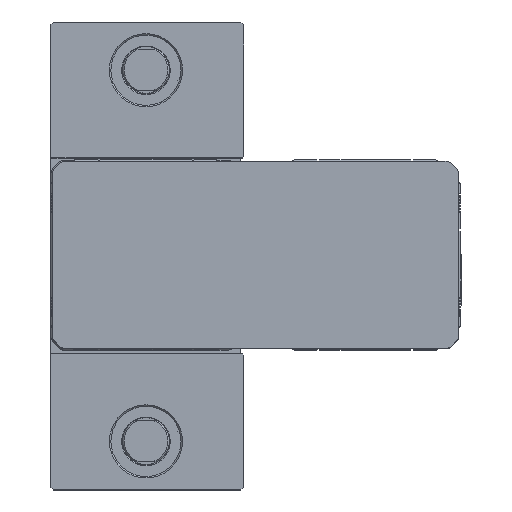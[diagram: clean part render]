
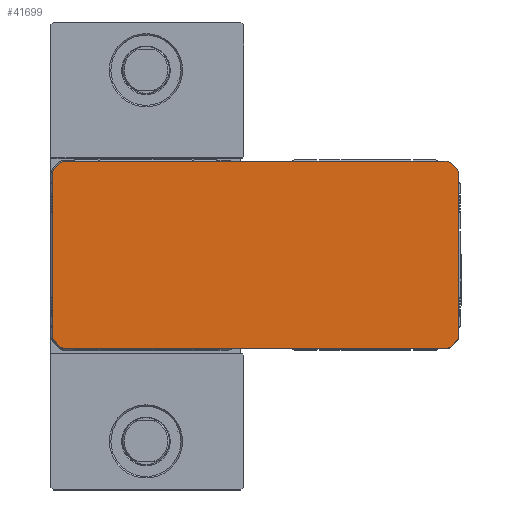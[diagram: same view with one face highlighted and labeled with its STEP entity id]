
A CAD part, top view. The second image highlights one B-rep face of the part: STEP entity #41699.
In plain terms, the highlighted planar face has unit normal (0, 0, 1).
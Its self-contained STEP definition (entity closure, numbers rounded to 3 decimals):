
#203 = DIRECTION ( 'NONE',  ( 0., 0., 1. ) ) ;
#375 = CARTESIAN_POINT ( 'NONE',  ( -30.5, -28., 202.5 ) ) ;
#759 = ORIENTED_EDGE ( 'NONE', *, *, #32556, .T. ) ;
#3384 = CARTESIAN_POINT ( 'NONE',  ( 106.561, -29.061, 202.5 ) ) ;
#3632 = DIRECTION ( 'NONE',  ( 0., -1., 0. ) ) ;
#3912 = DIRECTION ( 'NONE',  ( 1., 0., 0. ) ) ;
#4560 = EDGE_CURVE ( 'NONE', #6286, #18682, #35594, .T. ) ;
#5139 = CARTESIAN_POINT ( 'NONE',  ( -30.5, 28., 202.5 ) ) ;
#5241 = DIRECTION ( 'NONE',  ( 0., 0., 1. ) ) ;
#6077 = DIRECTION ( 'NONE',  ( 0., 0., 1. ) ) ;
#6286 = VERTEX_POINT ( 'NONE', #31207 ) ;
#6361 = CARTESIAN_POINT ( 'NONE',  ( -32., -28., 202.5 ) ) ;
#6385 = EDGE_CURVE ( 'NONE', #15579, #31741, #9840, .T. ) ;
#6594 = LINE ( 'NONE', #21243, #14782 ) ;
#6954 = DIRECTION ( 'NONE',  ( 0., 0., 1. ) ) ;
#7377 = CARTESIAN_POINT ( 'NONE',  ( 107., -28., 202.5 ) ) ;
#7786 = AXIS2_PLACEMENT_3D ( 'NONE', #33298, #12276, #36839 ) ;
#7987 = VERTEX_POINT ( 'NONE', #35904 ) ;
#8098 = CIRCLE ( 'NONE', #28181, 1.5 ) ;
#8376 = VECTOR ( 'NONE', #43978, 1000. ) ;
#8672 = DIRECTION ( 'NONE',  ( 1., 0., 0. ) ) ;
#8717 = CARTESIAN_POINT ( 'NONE',  ( 104.061, -31.561, 202.5 ) ) ;
#8868 = LINE ( 'NONE', #7377, #45024 ) ;
#9461 = EDGE_CURVE ( 'NONE', #42812, #29509, #42453, .T. ) ;
#9840 = CIRCLE ( 'NONE', #42471, 1.5 ) ;
#9941 = EDGE_CURVE ( 'NONE', #28613, #38565, #21510, .T. ) ;
#12131 = CIRCLE ( 'NONE', #40526, 1.5 ) ;
#12195 = DIRECTION ( 'NONE',  ( -0.707, 0.707, 0. ) ) ;
#12276 = DIRECTION ( 'NONE',  ( 0., 0., 1. ) ) ;
#12907 = AXIS2_PLACEMENT_3D ( 'NONE', #36467, #15444, #40016 ) ;
#13167 = VERTEX_POINT ( 'NONE', #3384 ) ;
#13768 = CARTESIAN_POINT ( 'NONE',  ( 103., -32., 202.5 ) ) ;
#13827 = VECTOR ( 'NONE', #21966, 1000. ) ;
#13901 = LINE ( 'NONE', #14031, #30374 ) ;
#14031 = CARTESIAN_POINT ( 'NONE',  ( -32., 28., 202.5 ) ) ;
#14671 = CIRCLE ( 'NONE', #20477, 1.5 ) ;
#14782 = VECTOR ( 'NONE', #42450, 1000. ) ;
#14915 = ORIENTED_EDGE ( 'NONE', *, *, #4560, .T. ) ;
#15444 = DIRECTION ( 'NONE',  ( 0., 0., 1. ) ) ;
#15579 = VERTEX_POINT ( 'NONE', #6361 ) ;
#15942 = DIRECTION ( 'NONE',  ( 1., 0., 0. ) ) ;
#16024 = LINE ( 'NONE', #43780, #42949 ) ;
#16281 = ORIENTED_EDGE ( 'NONE', *, *, #40229, .T. ) ;
#16934 = EDGE_CURVE ( 'NONE', #18682, #42542, #16024, .T. ) ;
#17635 = CARTESIAN_POINT ( 'NONE',  ( -31.561, -29.061, 202.5 ) ) ;
#17646 = LINE ( 'NONE', #40471, #8376 ) ;
#18065 = DIRECTION ( 'NONE',  ( 0., 1., 0. ) ) ;
#18497 = LINE ( 'NONE', #22780, #44285 ) ;
#18564 = ORIENTED_EDGE ( 'NONE', *, *, #33060, .T. ) ;
#18682 = VERTEX_POINT ( 'NONE', #36395 ) ;
#19002 = AXIS2_PLACEMENT_3D ( 'NONE', #21156, #203, #24685 ) ;
#20297 = DIRECTION ( 'NONE',  ( 0., 0., 1. ) ) ;
#20477 = AXIS2_PLACEMENT_3D ( 'NONE', #26199, #5241, #29762 ) ;
#21156 = CARTESIAN_POINT ( 'NONE',  ( 103., 30.5, 202.5 ) ) ;
#21243 = CARTESIAN_POINT ( 'NONE',  ( -29.061, 31.561, 202.5 ) ) ;
#21510 = CIRCLE ( 'NONE', #12907, 1.5 ) ;
#21966 = DIRECTION ( 'NONE',  ( 0.707, -0.707, 0. ) ) ;
#22444 = EDGE_CURVE ( 'NONE', #29509, #34237, #41133, .T. ) ;
#22780 = CARTESIAN_POINT ( 'NONE',  ( 103., 32., 202.5 ) ) ;
#23071 = VERTEX_POINT ( 'NONE', #33396 ) ;
#23441 = EDGE_CURVE ( 'NONE', #31741, #7987, #31401, .T. ) ;
#23698 = ORIENTED_EDGE ( 'NONE', *, *, #9941, .T. ) ;
#24375 = CARTESIAN_POINT ( 'NONE',  ( -30.5, -28., 202.5 ) ) ;
#24665 = EDGE_CURVE ( 'NONE', #38565, #23071, #6594, .T. ) ;
#24685 = DIRECTION ( 'NONE',  ( 1., 0., 0. ) ) ;
#24862 = DIRECTION ( 'NONE',  ( 0., 0., 1. ) ) ;
#26199 = CARTESIAN_POINT ( 'NONE',  ( -28., -30.5, 202.5 ) ) ;
#26494 = ORIENTED_EDGE ( 'NONE', *, *, #37680, .T. ) ;
#27028 = CARTESIAN_POINT ( 'NONE',  ( 105.5, 28., 202.5 ) ) ;
#27352 = CARTESIAN_POINT ( 'NONE',  ( -29.061, 31.561, 202.5 ) ) ;
#27393 = AXIS2_PLACEMENT_3D ( 'NONE', #27028, #6077, #30578 ) ;
#28181 = AXIS2_PLACEMENT_3D ( 'NONE', #41343, #20297, #44813 ) ;
#28223 = CARTESIAN_POINT ( 'NONE',  ( -28., -32., 202.5 ) ) ;
#28613 = VERTEX_POINT ( 'NONE', #30803 ) ;
#29509 = VERTEX_POINT ( 'NONE', #13768 ) ;
#29658 = DIRECTION ( 'NONE',  ( 0., 0., 1. ) ) ;
#29762 = DIRECTION ( 'NONE',  ( 1., 0., 0. ) ) ;
#29768 = ORIENTED_EDGE ( 'NONE', *, *, #31739, .T. ) ;
#29881 = ORIENTED_EDGE ( 'NONE', *, *, #42621, .T. ) ;
#29985 = ORIENTED_EDGE ( 'NONE', *, *, #45419, .T. ) ;
#30374 = VECTOR ( 'NONE', #3632, 1000. ) ;
#30578 = DIRECTION ( 'NONE',  ( 1., 0., 0. ) ) ;
#30722 = CARTESIAN_POINT ( 'NONE',  ( 107., -28., 202.5 ) ) ;
#30803 = CARTESIAN_POINT ( 'NONE',  ( -28., 32., 202.5 ) ) ;
#30924 = CIRCLE ( 'NONE', #19002, 1.5 ) ;
#31207 = CARTESIAN_POINT ( 'NONE',  ( 107., 28., 202.5 ) ) ;
#31401 = LINE ( 'NONE', #43016, #13827 ) ;
#31483 = DIRECTION ( 'NONE',  ( 1., 0., 0. ) ) ;
#31739 = EDGE_CURVE ( 'NONE', #42542, #44861, #30924, .T. ) ;
#31741 = VERTEX_POINT ( 'NONE', #17635 ) ;
#31781 = ORIENTED_EDGE ( 'NONE', *, *, #23441, .T. ) ;
#32025 = VECTOR ( 'NONE', #15942, 1000. ) ;
#32065 = ORIENTED_EDGE ( 'NONE', *, *, #16934, .T. ) ;
#32556 = EDGE_CURVE ( 'NONE', #34237, #13167, #17646, .T. ) ;
#33060 = EDGE_CURVE ( 'NONE', #23071, #35782, #12131, .T. ) ;
#33298 = CARTESIAN_POINT ( 'NONE',  ( 103., -30.5, 202.5 ) ) ;
#33396 = CARTESIAN_POINT ( 'NONE',  ( -31.561, 29.061, 202.5 ) ) ;
#33669 = CARTESIAN_POINT ( 'NONE',  ( -32., 28., 202.5 ) ) ;
#34237 = VERTEX_POINT ( 'NONE', #8717 ) ;
#34458 = ORIENTED_EDGE ( 'NONE', *, *, #9461, .T. ) ;
#35112 = EDGE_CURVE ( 'NONE', #44861, #28613, #18497, .T. ) ;
#35594 = CIRCLE ( 'NONE', #27393, 1.5 ) ;
#35782 = VERTEX_POINT ( 'NONE', #33669 ) ;
#35904 = CARTESIAN_POINT ( 'NONE',  ( -29.061, -31.561, 202.5 ) ) ;
#36395 = CARTESIAN_POINT ( 'NONE',  ( 106.561, 29.061, 202.5 ) ) ;
#36412 = AXIS2_PLACEMENT_3D ( 'NONE', #24375, #6954, #31483 ) ;
#36467 = CARTESIAN_POINT ( 'NONE',  ( -28., 30.5, 202.5 ) ) ;
#36839 = DIRECTION ( 'NONE',  ( 1., 0., 0. ) ) ;
#36986 = CARTESIAN_POINT ( 'NONE',  ( -28., -32., 202.5 ) ) ;
#37288 = FACE_OUTER_BOUND ( 'NONE', #42376, .T. ) ;
#37680 = EDGE_CURVE ( 'NONE', #41582, #6286, #8868, .T. ) ;
#38565 = VERTEX_POINT ( 'NONE', #27352 ) ;
#38827 = ORIENTED_EDGE ( 'NONE', *, *, #35112, .T. ) ;
#39412 = ORIENTED_EDGE ( 'NONE', *, *, #6385, .T. ) ;
#39525 = ORIENTED_EDGE ( 'NONE', *, *, #22444, .T. ) ;
#40016 = DIRECTION ( 'NONE',  ( 1., 0., 0. ) ) ;
#40229 = EDGE_CURVE ( 'NONE', #7987, #42812, #14671, .T. ) ;
#40471 = CARTESIAN_POINT ( 'NONE',  ( 104.061, -31.561, 202.5 ) ) ;
#40526 = AXIS2_PLACEMENT_3D ( 'NONE', #5139, #29658, #8672 ) ;
#40674 = CARTESIAN_POINT ( 'NONE',  ( 103., 32., 202.5 ) ) ;
#41133 = CIRCLE ( 'NONE', #7786, 1.5 ) ;
#41343 = CARTESIAN_POINT ( 'NONE',  ( 105.5, -28., 202.5 ) ) ;
#41582 = VERTEX_POINT ( 'NONE', #30722 ) ;
#41699 = ADVANCED_FACE ( 'NONE', ( #37288 ), #45234, .T. ) ;
#42376 = EDGE_LOOP ( 'NONE', ( #39412, #31781, #16281, #34458, #39525, #759, #29881, #26494, #14915, #32065, #29768, #38827, #23698, #44823, #18564, #29985 ) ) ;
#42450 = DIRECTION ( 'NONE',  ( -0.707, -0.707, 0. ) ) ;
#42453 = LINE ( 'NONE', #36986, #32025 ) ;
#42471 = AXIS2_PLACEMENT_3D ( 'NONE', #375, #24862, #3912 ) ;
#42542 = VERTEX_POINT ( 'NONE', #44225 ) ;
#42621 = EDGE_CURVE ( 'NONE', #13167, #41582, #8098, .T. ) ;
#42812 = VERTEX_POINT ( 'NONE', #28223 ) ;
#42949 = VECTOR ( 'NONE', #12195, 1000. ) ;
#43016 = CARTESIAN_POINT ( 'NONE',  ( -31.561, -29.061, 202.5 ) ) ;
#43780 = CARTESIAN_POINT ( 'NONE',  ( 106.561, 29.061, 202.5 ) ) ;
#43978 = DIRECTION ( 'NONE',  ( 0.707, 0.707, 0. ) ) ;
#43981 = DIRECTION ( 'NONE',  ( -1., 0., 0. ) ) ;
#44225 = CARTESIAN_POINT ( 'NONE',  ( 104.061, 31.561, 202.5 ) ) ;
#44285 = VECTOR ( 'NONE', #43981, 1000. ) ;
#44813 = DIRECTION ( 'NONE',  ( 1., 0., 0. ) ) ;
#44823 = ORIENTED_EDGE ( 'NONE', *, *, #24665, .T. ) ;
#44861 = VERTEX_POINT ( 'NONE', #40674 ) ;
#45024 = VECTOR ( 'NONE', #18065, 1000. ) ;
#45234 = PLANE ( 'NONE',  #36412 ) ;
#45419 = EDGE_CURVE ( 'NONE', #35782, #15579, #13901, .T. ) ;
